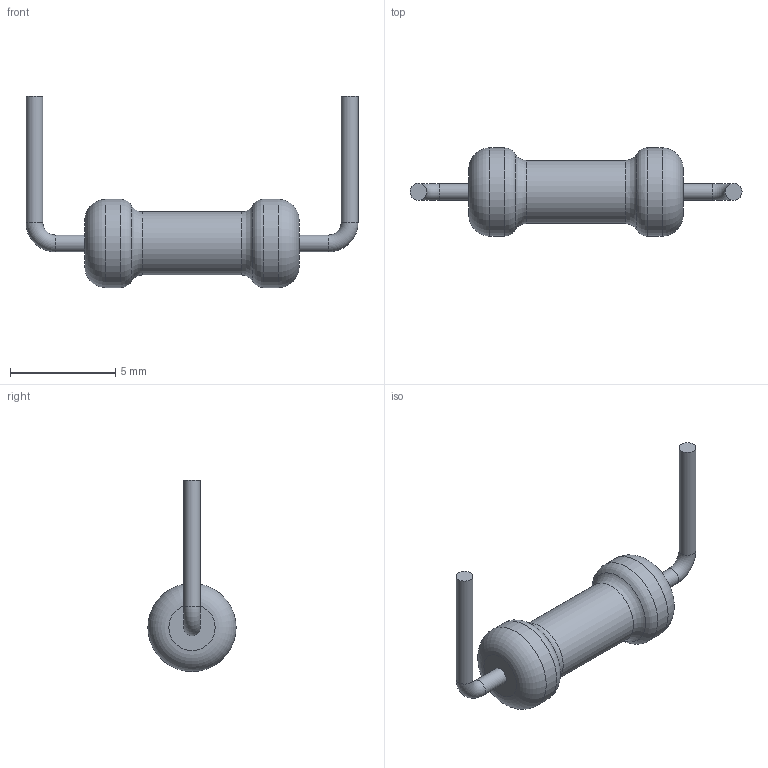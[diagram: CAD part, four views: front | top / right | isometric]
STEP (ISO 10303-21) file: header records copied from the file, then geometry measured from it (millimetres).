
FILE_DESCRIPTION(('STEP AP203'), '1');
FILE_NAME('C2-33-0.5', '', ('UNSPECIFIED'), ('UNSPECIFIED'), 'ASCON STEP Converter 1.6', 'ASCON Math Kernel', '');
FILE_SCHEMA(('CONFIG_CONTROL_DESIGN'));
Length unit declared in the file: millimetre
Bounding box: 15.8 x 4.2 x 9.1 mm (x, y, z)
Volume: 105.9 mm3; surface area: 178.4 mm2
Topology: 1 solids, 1 shells, 19 faces, 33 edges, 18 vertices
Faces by surface type: torus 8, cylinder 7, plane 4
Full cylindrical faces by diameter (mm): 0.8 x4, 3 x1, 4.2 x2
Entity records: 570 total; most frequent: DIRECTION 76, CARTESIAN_POINT 56, AXIS2_PLACEMENT_3D 38, EDGE_LOOP 36, ORIENTED_EDGE 36, FACE_OUTER_BOUND 30, COLOUR_RGB 20, FILL_AREA_STYLE_COLOUR 20
